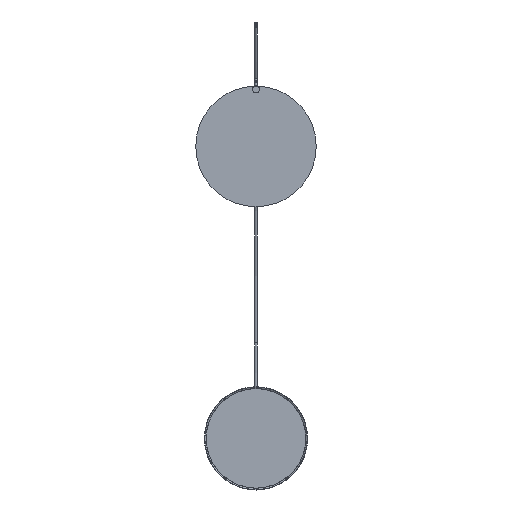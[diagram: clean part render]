
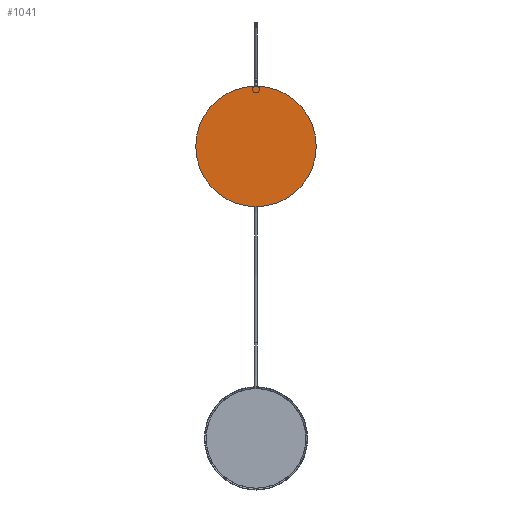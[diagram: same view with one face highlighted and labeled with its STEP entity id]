
A CAD part, front view. The second image highlights one B-rep face of the part: STEP entity #1041.
In plain terms, the highlighted planar face has unit normal (0, -1, 0).
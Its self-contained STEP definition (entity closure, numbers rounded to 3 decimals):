
#95=PLANE('',#1142);
#123=FACE_OUTER_BOUND('',#191,.T.);
#191=EDGE_LOOP('',(#714,#715));
#326=CIRCLE('',#1139,262.5);
#327=CIRCLE('',#1140,262.5);
#439=VERTEX_POINT('',#1707);
#440=VERTEX_POINT('',#1709);
#553=EDGE_CURVE('',#439,#440,#326,.T.);
#554=EDGE_CURVE('',#440,#439,#327,.T.);
#714=ORIENTED_EDGE('',*,*,#554,.F.);
#715=ORIENTED_EDGE('',*,*,#553,.F.);
#1041=ADVANCED_FACE('',(#123),#95,.F.);
#1139=AXIS2_PLACEMENT_3D('',#1710,#1323,#1324);
#1140=AXIS2_PLACEMENT_3D('',#1711,#1325,#1326);
#1142=AXIS2_PLACEMENT_3D('',#1713,#1329,#1330);
#1323=DIRECTION('center_axis',(0.,1.,0.));
#1324=DIRECTION('ref_axis',(-1.,0.,0.));
#1325=DIRECTION('center_axis',(0.,1.,0.));
#1326=DIRECTION('ref_axis',(-1.,0.,0.));
#1329=DIRECTION('center_axis',(0.,1.,0.));
#1330=DIRECTION('ref_axis',(0.,0.,1.));
#1707=CARTESIAN_POINT('',(262.5,0.,0.));
#1709=CARTESIAN_POINT('',(-262.5,0.,0.));
#1710=CARTESIAN_POINT('Origin',(0.,0.,0.));
#1711=CARTESIAN_POINT('Origin',(0.,0.,0.));
#1713=CARTESIAN_POINT('Origin',(0.,0.,0.));
